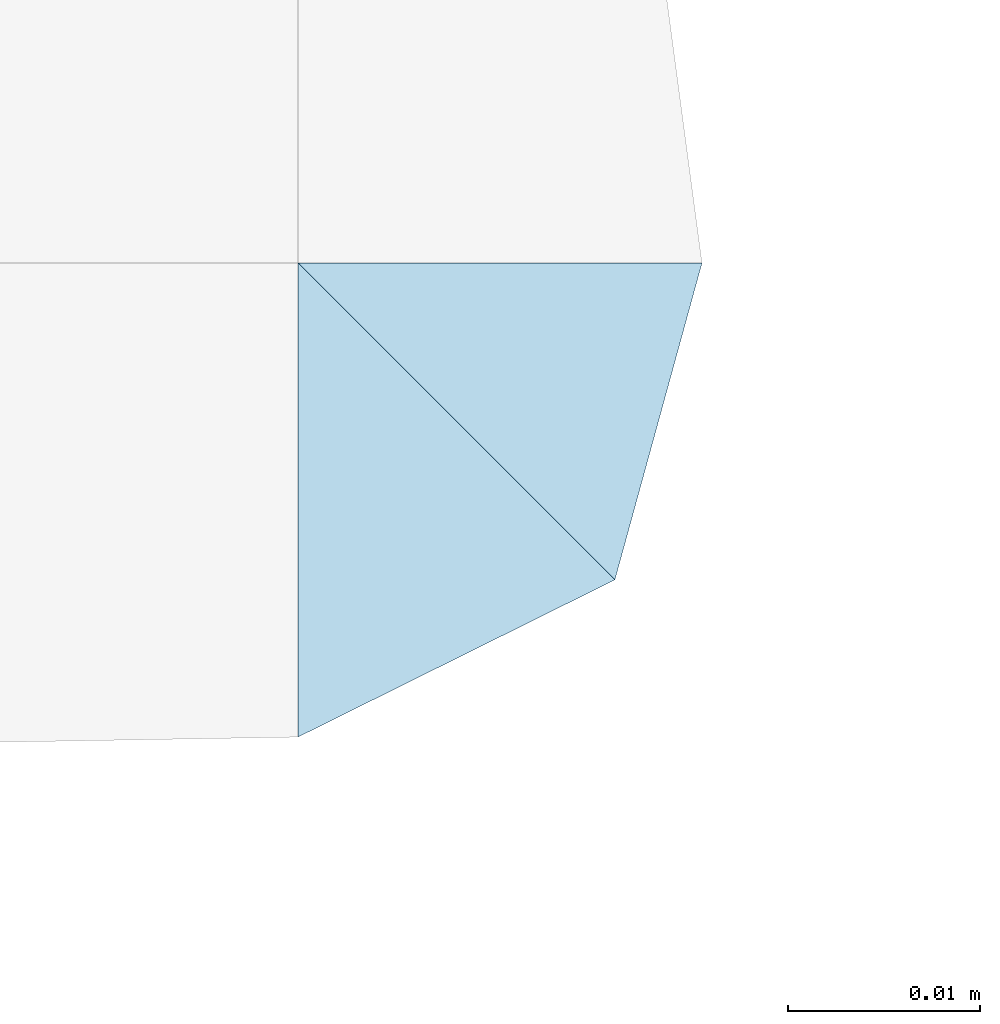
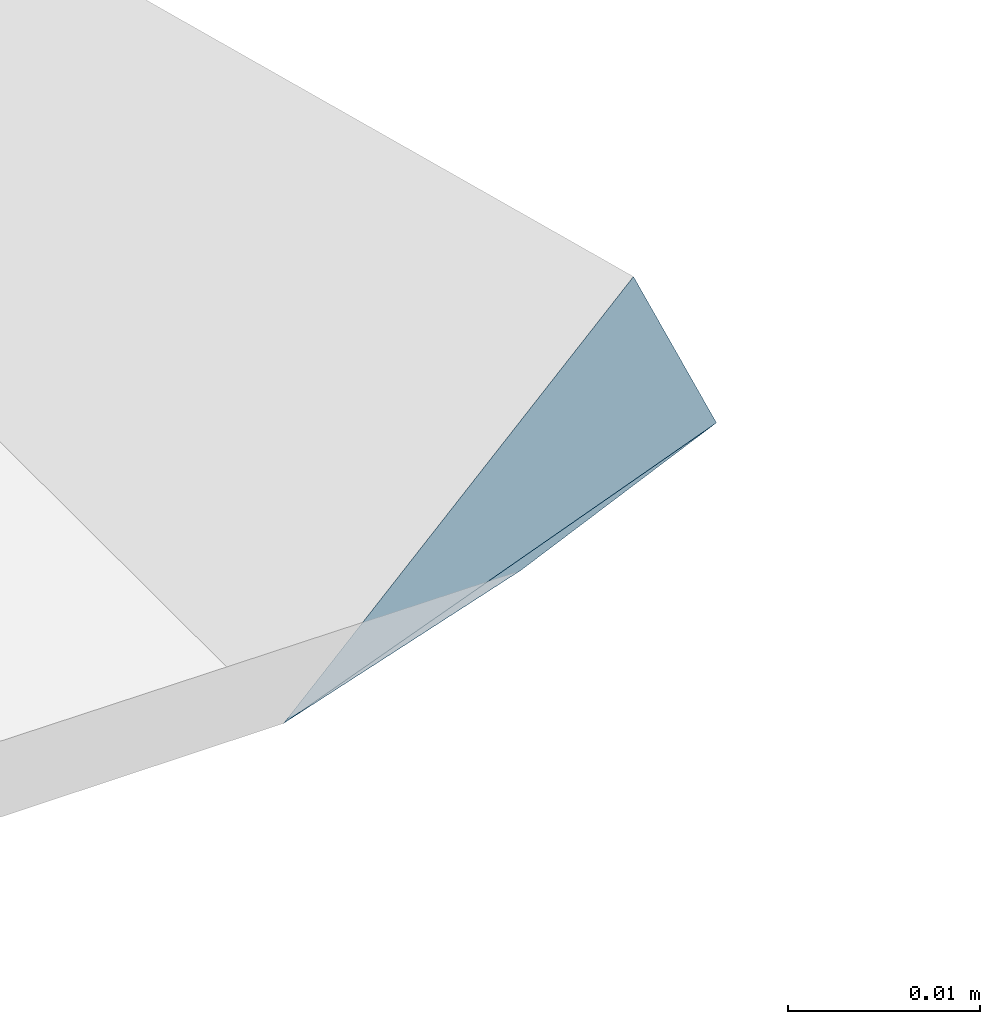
# One storey, part 13 of 14: 2 slabs.
"""IFC2X3 building model written with IfcOpenShell, lengths in metres."""

from ifc_helpers import new_model, si_unit, origin, origin_with_axes, place, context, subcontext, project, spatial, faceted_brep, element, save


model = new_model("IFC2X3")

# Units and contexts
context_of_model = context(None, 3, world=origin_with_axes())
sub_context = subcontext(context_of_model, None, None, "MODEL_VIEW")
ifc_project = project(units=[si_unit("LENGTHUNIT", "METRE"), si_unit("AREAUNIT", "SQUARE_METRE"), si_unit("VOLUMEUNIT", "CUBIC_METRE"), si_unit("PLANEANGLEUNIT", "RADIAN"), si_unit("MASSUNIT", "GRAM", prefix="KILO")])

# Site, building, storey
site_placement = place(None, origin_with_axes())
site = spatial("IfcSite", under=ifc_project, at=site_placement, Name="Site.1", CompositionType="ELEMENT")
building_placement = place(site_placement, origin())
building = spatial("IfcBuilding", under=site, at=building_placement, Name="Building.1", CompositionType="ELEMENT")
storey_placement = place(building_placement, origin())
storey = spatial("IfcBuildingStorey", under=building, at=storey_placement, Name="VRD", CompositionType="ELEMENT")

# Slabs
slab_1_placement = place(storey_placement, origin())
element("IfcSlab", 1, at=slab_1_placement, inside=storey, Name="PJ FINI n°81", PredefinedType="USERDEFINED", context=sub_context, shape_type="Brep", body=[
    faceted_brep([(52.881781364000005, -7.655936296, -1.500000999), (52.898289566, -7.672444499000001, -1.476654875), (52.881781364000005, -7.680634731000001, -1.475302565)], [[[0, 1, 2]]]),
])
slab_2_placement = place(storey_placement, origin())
element("IfcSlab", 2, at=slab_2_placement, inside=storey, Name="PJ FINI n°108", PredefinedType="USERDEFINED", context=sub_context, shape_type="Brep", body=[
    faceted_brep([(52.881781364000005, -7.655936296, -1.500000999), (52.90282699, -7.655936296, -1.478955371), (52.898289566, -7.672444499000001, -1.476654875)], [[[0, 1, 2]]]),
])

save(model, "model.ifc")
